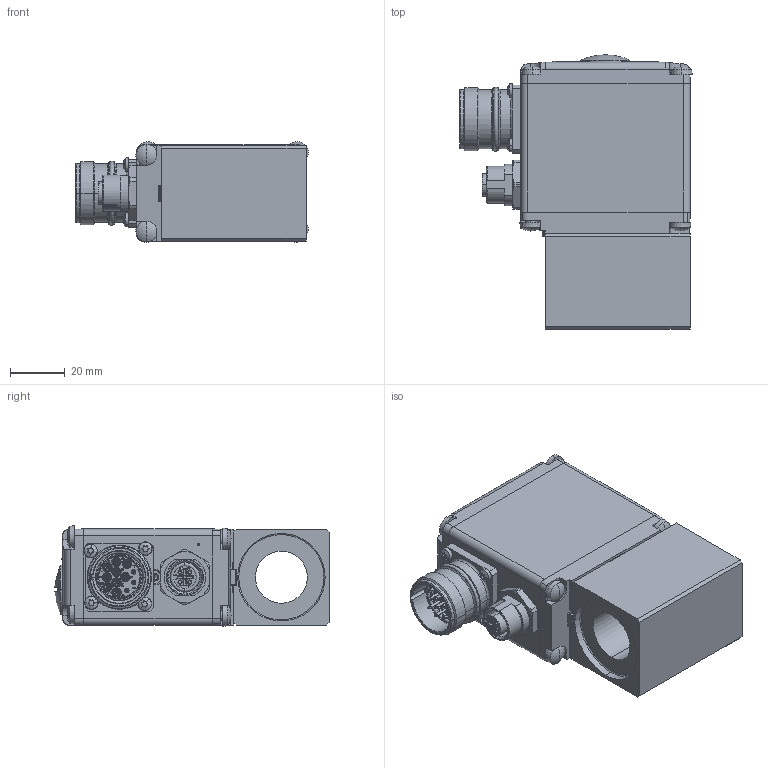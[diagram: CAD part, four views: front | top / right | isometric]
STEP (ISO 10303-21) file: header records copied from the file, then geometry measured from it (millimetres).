
FILE_DESCRIPTION (( 'STEP AP214' ), '1' );
FILE_NAME ('ME35_19x50-...A.R..STEP', '2014-04-03T06:51:06', ( '' ), ( '' ), 'SwSTEP 2.0', 'SolidWorks 2012', '' );
FILE_SCHEMA (( 'AUTOMOTIVE_DESIGN' ));
Length unit declared in the file: millimetre
Products named in the file (1): ME35_19x50-...A.R.
Bounding box: 85.1 x 100.39 x 36.78 mm (x, y, z)
Volume: 122905.3 mm3; surface area: 49272.4 mm2
Topology: 5 solids, 5 shells, 3201 faces, 8919 edges, 5809 vertices
Faces by surface type: plane 1888, cylinder 759, torus 230, cone 168, bspline 83, sphere 73
Entity records: 112101 total; most frequent: CARTESIAN_POINT 25506, ORIENTED_EDGE 17716, DIRECTION 16196, EDGE_CURVE 8858, VECTOR 5862, LINE 5862, VERTEX_POINT 5785, AXIS2_PLACEMENT_3D 5167
